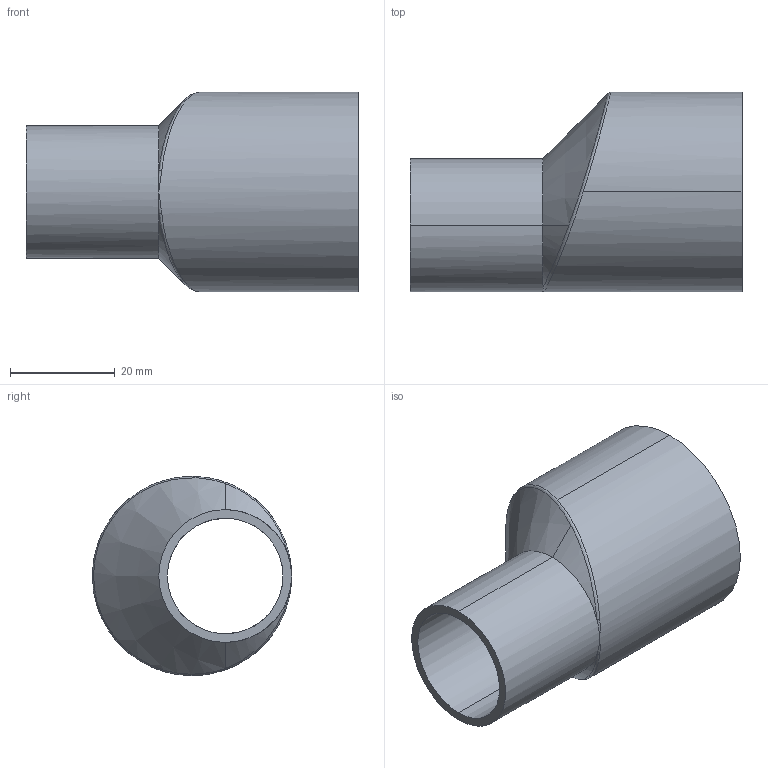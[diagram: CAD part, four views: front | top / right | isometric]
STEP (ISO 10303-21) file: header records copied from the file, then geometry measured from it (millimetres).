
FILE_DESCRIPTION (( 'STEP AP214' ), '1' );
FILE_NAME ('TE32SWW6L1.5x1.0-...STEP', '2016-06-01T04:46:08', ( 'eran' ), ( '' ), 'SwSTEP 2.0', 'SolidWorks 2016', '' );
FILE_SCHEMA (( 'AUTOMOTIVE_DESIGN' ));
Length unit declared in the file: millimetre
Products named in the file (1): TE32SWW6L1.5x1.0-..
Bounding box: 63.5 x 38.1 x 38.1 mm (x, y, z)
Volume: 19148 mm3; surface area: 12229.7 mm2
Topology: 1 solids, 1 shells, 22 faces, 53 edges, 29 vertices
Faces by surface type: cylinder 8, cone 5, bspline 5, torus 2, plane 2
Entity records: 1353 total; most frequent: CARTESIAN_POINT 861, ORIENTED_EDGE 98, DIRECTION 91, EDGE_CURVE 49, AXIS2_PLACEMENT_3D 40, VERTEX_POINT 29, EDGE_LOOP 24, ADVANCED_FACE 22
